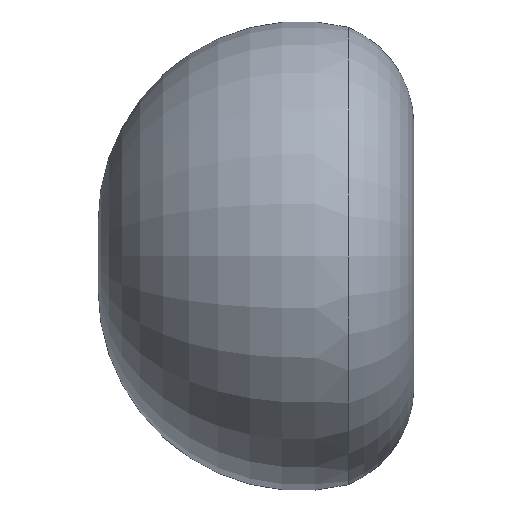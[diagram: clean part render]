
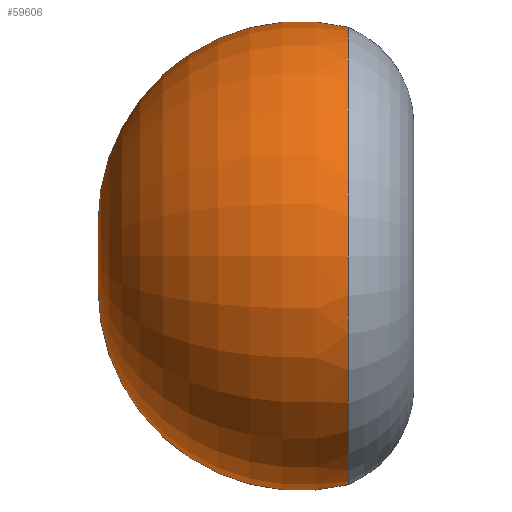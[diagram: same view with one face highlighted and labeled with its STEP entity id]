
A CAD part, left-side view. The second image highlights one B-rep face of the part: STEP entity #59606.
In plain terms, the highlighted toroidal (fillet/blend) face has major radius 350 mm and minor radius 2150.81 mm.
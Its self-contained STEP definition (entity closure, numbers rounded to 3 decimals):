
#59055 = VERTEX_POINT ( 'NONE', #70550 ) ;
#59060 = VERTEX_POINT ( 'NONE', #70545 ) ;
#59138 = EDGE_CURVE ( 'NONE', #59140, #59055, #70635, .T. ) ;
#59140 = VERTEX_POINT ( 'NONE', #70693 ) ;
#59147 = EDGE_CURVE ( 'NONE', #59140, #59060, #70688, .T. ) ;
#59606 = ADVANCED_FACE ( 'NONE', ( #71252 ), #71318, .T. ) ;
#59608 = EDGE_LOOP ( 'NONE', ( #59610, #59614, #59617 ) ) ;
#59610 = ORIENTED_EDGE ( 'NONE', *, *, #59147, .F. ) ;
#59614 = ORIENTED_EDGE ( 'NONE', *, *, #59138, .T. ) ;
#59617 = ORIENTED_EDGE ( 'NONE', *, *, #59618, .F. ) ;
#59618 = EDGE_CURVE ( 'NONE', #59060, #59055, #71313, .T. ) ;
#70545 = CARTESIAN_POINT ( 'NONE',  ( 0., 314.061, 2438.008 ) ) ;
#70550 = CARTESIAN_POINT ( 'NONE',  ( 0., 314.061, -2438.008 ) ) ;
#70631 = DIRECTION ( 'NONE',  ( 0., 0., 1. ) ) ;
#70632 = DIRECTION ( 'NONE',  ( -1., 0., 0. ) ) ;
#70633 = CARTESIAN_POINT ( 'NONE',  ( 0., 830., -350. ) ) ;
#70634 = AXIS2_PLACEMENT_3D ( 'NONE', #70633, #70632, #70631 ) ;
#70635 = CIRCLE ( 'NONE', #70634, 2150.807 ) ;
#70684 = DIRECTION ( 'NONE',  ( 0., 0., -1. ) ) ;
#70685 = DIRECTION ( 'NONE',  ( 1., 0., 0. ) ) ;
#70686 = CARTESIAN_POINT ( 'NONE',  ( 0., 830., 350. ) ) ;
#70687 = AXIS2_PLACEMENT_3D ( 'NONE', #70686, #70685, #70684 ) ;
#70688 = CIRCLE ( 'NONE', #70687, 2150.807 ) ;
#70693 = CARTESIAN_POINT ( 'NONE',  ( 0., 2952.138, 0. ) ) ;
#71252 = FACE_OUTER_BOUND ( 'NONE', #59608, .T. ) ;
#71257 = CARTESIAN_POINT ( 'NONE',  ( 0., 830., 0. ) ) ;
#71309 = DIRECTION ( 'NONE',  ( 0., 0., -1. ) ) ;
#71310 = DIRECTION ( 'NONE',  ( 0., -1., 0. ) ) ;
#71311 = CARTESIAN_POINT ( 'NONE',  ( 0., 314.061, 0. ) ) ;
#71312 = AXIS2_PLACEMENT_3D ( 'NONE', #71311, #71310, #71309 ) ;
#71313 = CIRCLE ( 'NONE', #71312, 2438.008 ) ;
#71315 = DIRECTION ( 'NONE',  ( 0., 0., -1. ) ) ;
#71316 = DIRECTION ( 'NONE',  ( 0., -1., 0. ) ) ;
#71317 = AXIS2_PLACEMENT_3D ( 'NONE', #71257, #71316, #71315 ) ;
#71318 = TOROIDAL_SURFACE ( 'NONE', #71317, 350., 2150.807 ) ;
